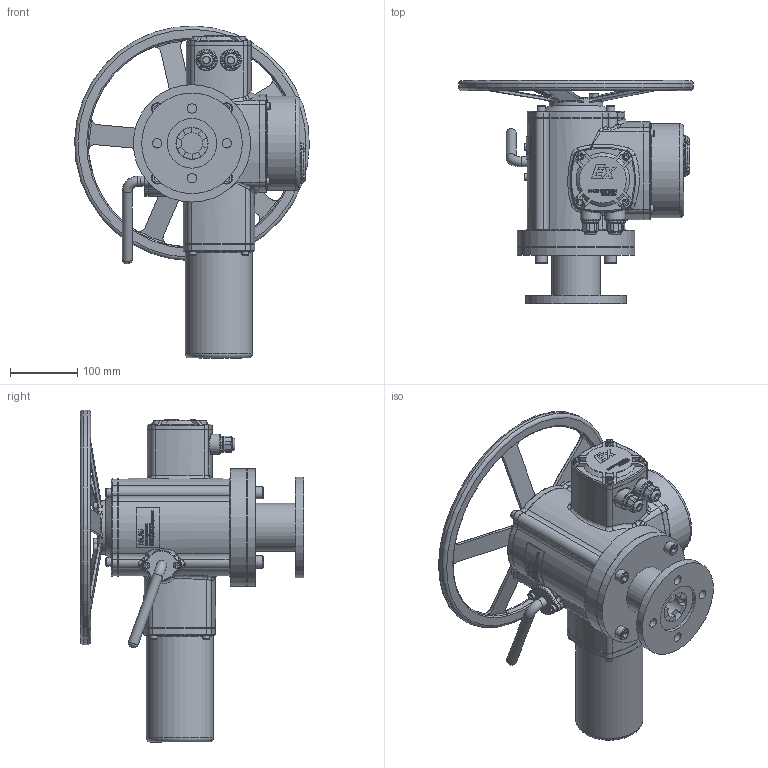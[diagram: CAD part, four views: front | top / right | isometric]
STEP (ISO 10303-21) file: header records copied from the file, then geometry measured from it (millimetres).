
FILE_DESCRIPTION(/* description */ ('D300-04891','CAx-IF Rec.Pracs.---Representation and Presentation of Product Manufacturing Information (PMI)---4.0---2014-10-13'),/* implementation_level */ '2;1');
FILE_NAME(/* name */ '',/* time_stamp */ '2026-03-16T01:08:52+03:00',/* author */ ('DN.RU'),/* organization */ ('DN.RU'),/* preprocessor_version */ 'ST-DEVELOPER v20',/* originating_system */ 'Autodesk Inventor 2025',/* authorisation */ '');
FILE_SCHEMA (('AP242_MANAGED_MODEL_BASED_3D_ENGINEERING_MIM_LF { 1 0 10303 442 1 1 4 }'));
Length unit declared in the file: millimetre
Products named in the file (1): MT-N-020EM-O2-220VAC-У1
Bounding box: 349.92 x 332.5 x 494.96 mm (x, y, z)
Volume: 9427502.3 mm3; surface area: 669485.8 mm2
Topology: 1 solids, 8 shells, 2261 faces, 5960 edges, 3893 vertices
Faces by surface type: plane 1053, bspline 561, cylinder 384, torus 151, cone 106, sphere 6
Full cylindrical faces by diameter (mm): 2.224 x1, 2.5 x1, 3 x1, 6 x12, 7 x7, 8 x4, 10 x19, 10.772 x2, 12 x4, 13 x8, 14 x8, 15 x2, 18 x4, 18.963 x2, 21.521 x2, 30 x2, 32 x1, 32.618 x1, 38 x1, 39.966 x1, 40 x2, 40.456 x1, 42 x1, 47 x1, 48 x2, 50 x1, 60.335 x1, 60.968 x1, 72 x1, 74 x1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
Entity records: 89787 total; most frequent: CARTESIAN_POINT 35025, ORIENTED_EDGE 11834, DIRECTION 9477, EDGE_CURVE 5917, VERTEX_POINT 3893, AXIS2_PLACEMENT_3D 3388, LINE 2701, VECTOR 2701
